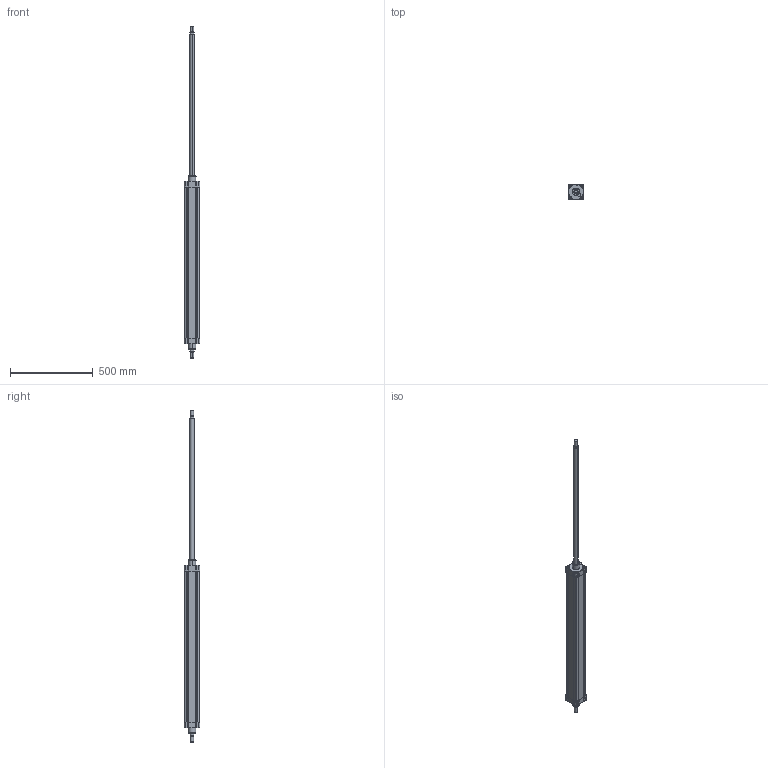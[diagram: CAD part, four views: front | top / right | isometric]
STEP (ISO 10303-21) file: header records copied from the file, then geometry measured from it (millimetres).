
FILE_DESCRIPTION((''),'2;1');
FILE_NAME('N11M40800850.stp','2010-01-07T00:14:47',('B. Petkovic 2010'),('AZ PNEUMATICA S.r.l.'),'Mechanical Desktop 2006','Mechanical Desktop 2006','Via Marco Biagi 6, I-20020 Misinto(MI) Italy, azpneu@tin.it');
FILE_SCHEMA(('CONFIG_CONTROL_DESIGN'));
Length unit declared in the file: millimetre
Products named in the file (2): N11M40630850; CILINDAR
Assembly tree (1 placements, depth 2):
  N11M40630850
    CILINDAR
Bounding box: 94 x 94 x 2000 mm (x, y, z)
Volume: 7693079.2 mm3; surface area: 555144.1 mm2
Topology: 1 solids, 1 shells, 721 faces, 1855 edges, 1181 vertices
Faces by surface type: cylinder 327, plane 300, torus 46, bspline 40, cone 8
Entity records: 23975 total; most frequent: CARTESIAN_POINT 5763, DIRECTION 4042, ORIENTED_EDGE 3710, EDGE_CURVE 1855, AXIS2_PLACEMENT_3D 1516, VERTEX_POINT 1181, VECTOR 1010, LINE 1010
